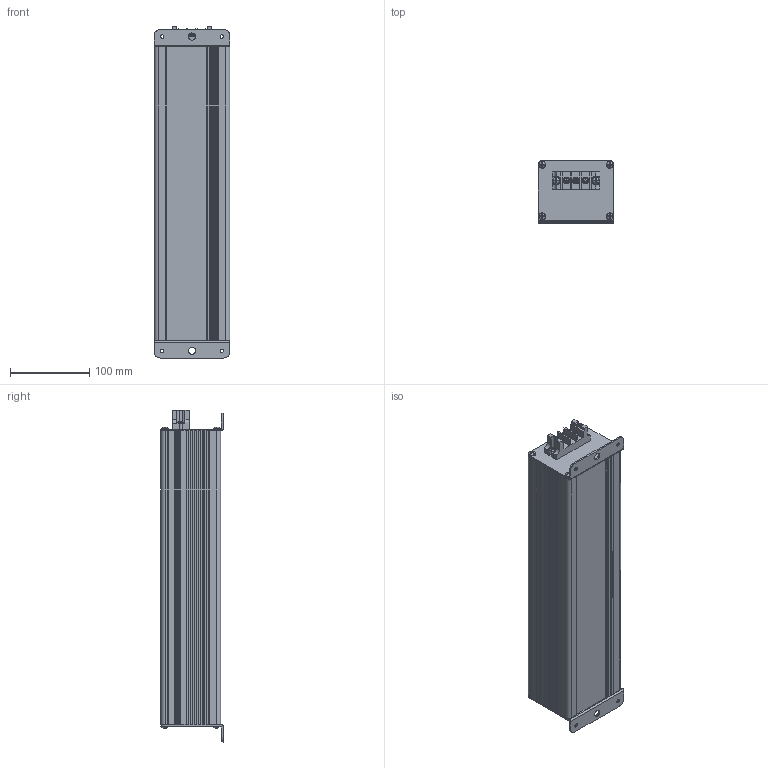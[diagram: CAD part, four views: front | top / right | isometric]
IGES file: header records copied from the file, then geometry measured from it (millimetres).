
Global section: file name: LB-11V75AH-TB; native system: Autodesk Inventor 2021; preprocessor: unknown; author: eunsol jang; date: 20221208.155036; units: inch
Bounding box: 95.5 x 78.2 x 418.29 mm (x, y, z)
Volume: 407002.4 mm3; surface area: 326236.7 mm2
Topology: 1 solids, 1 shells, 655 faces, 1933 edges, 1296 vertices
Faces by surface type: bspline 655
